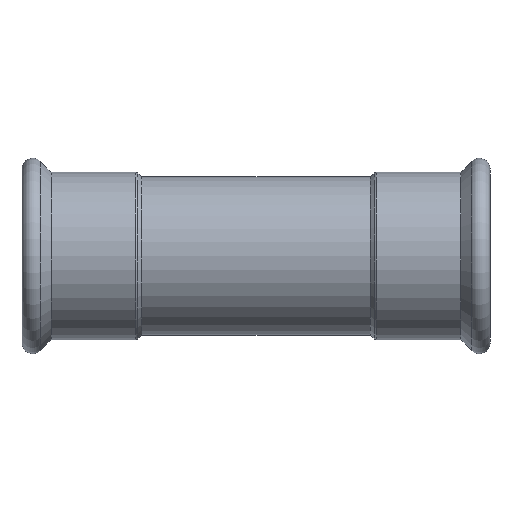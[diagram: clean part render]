
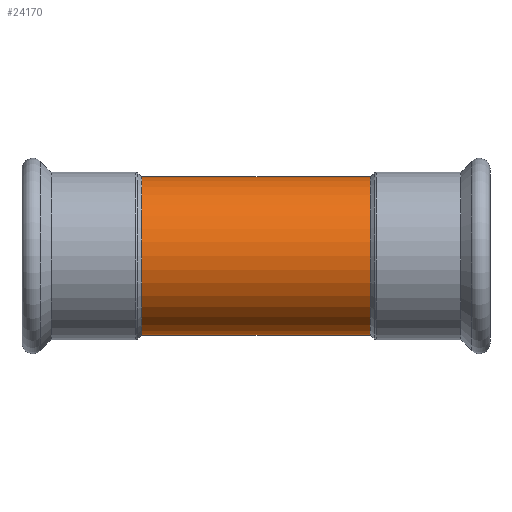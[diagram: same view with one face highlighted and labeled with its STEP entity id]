
A CAD part, top view. The second image highlights one B-rep face of the part: STEP entity #24170.
In plain terms, the highlighted cylindrical face has radius 44.45 mm (diameter 88.9 mm), a partial arc.
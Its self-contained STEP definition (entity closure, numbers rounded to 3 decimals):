
#1190=CARTESIAN_POINT('',(-468.306,-8.327,44.45));
#1200=VERTEX_POINT('',#1190);
#1380=CARTESIAN_POINT('',(-468.306,-8.327,-44.45));
#1390=VERTEX_POINT('',#1380);
#1420=CARTESIAN_POINT('',(-468.306,-8.327,
0.));
#1430=DIRECTION('',(1.,0.,0.));
#1440=DIRECTION('',(0.,0.,1.));
#1450=AXIS2_PLACEMENT_3D('',#1420,#1430,#1440);
#1460=CIRCLE('',#1450,44.45);
#4970=CARTESIAN_POINT('',(-340.306,-8.327,
0.));
#4980=DIRECTION('',(1.,0.,0.));
#4990=DIRECTION('',(0.,0.,1.));
#5000=AXIS2_PLACEMENT_3D('',#4970,#4980,#4990);
#5010=CYLINDRICAL_SURFACE('',#5000,44.45);
#19340=CARTESIAN_POINT('',(-340.306,-8.327,-44.45));
#19350=DIRECTION('',(1.,0.,0.));
#19360=VECTOR('',#19350,1.);
#19370=LINE('',#19340,#19360);
#19380=CARTESIAN_POINT('',(-340.306,-8.327,-44.45));
#19390=VERTEX_POINT('',#19380);
#19400=EDGE_CURVE('',#1390,#19390,#19370,.T.);
#19420=CARTESIAN_POINT('',(-340.306,-8.327,
0.));
#19430=DIRECTION('',(1.,0.,0.));
#19440=DIRECTION('',(0.,0.,-1.));
#19450=AXIS2_PLACEMENT_3D('',#19420,#19430,#19440);
#19460=CIRCLE('',#19450,44.45);
#19470=CARTESIAN_POINT('',(-340.306,-8.327,44.45));
#19480=VERTEX_POINT('',#19470);
#19510=CARTESIAN_POINT('',(-340.306,-8.327,44.45));
#19520=DIRECTION('',(1.,0.,0.));
#19530=VECTOR('',#19520,1.);
#19540=LINE('',#19510,#19530);
#19550=EDGE_CURVE('',#1200,#19480,#19540,.T.);
#23530=EDGE_CURVE('',#19480,#19390,#19460,.T.);
#24100=ORIENTED_EDGE('',*,*,#23530,.F.);
#24110=ORIENTED_EDGE('',*,*,#19400,.T.);
#24120=EDGE_CURVE('',#1200,#1390,#1460,.T.);
#24130=ORIENTED_EDGE('',*,*,#24120,.T.);
#24140=ORIENTED_EDGE('',*,*,#19550,.F.);
#24150=EDGE_LOOP('',(#24140,#24130,#24110,#24100));
#24160=FACE_OUTER_BOUND('',#24150,.T.);
#24170=ADVANCED_FACE('',(#24160),#5010,.T.);
